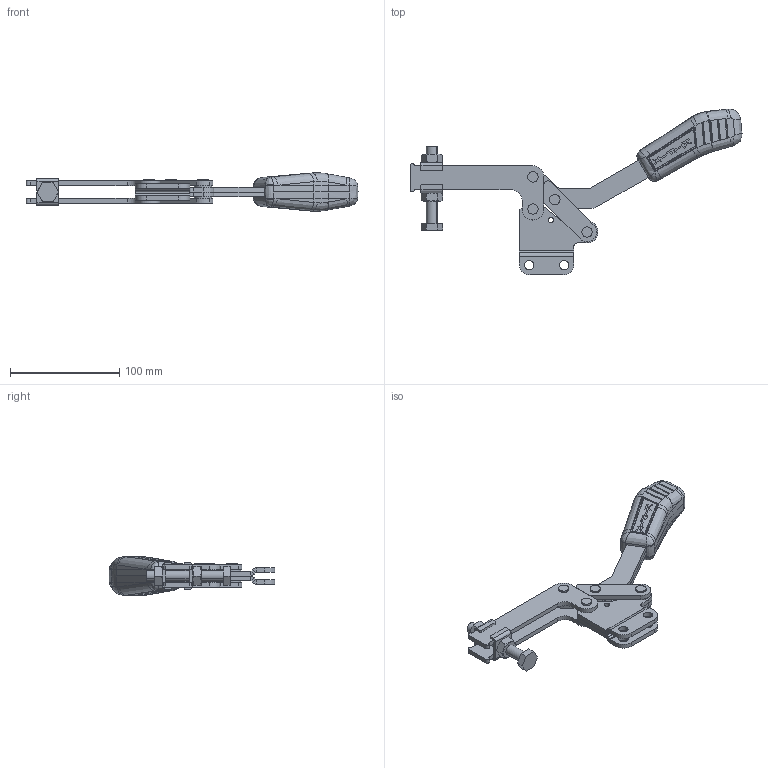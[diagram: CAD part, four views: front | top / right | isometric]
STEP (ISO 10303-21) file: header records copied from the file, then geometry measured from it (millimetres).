
FILE_DESCRIPTION (( 'STEP AP203' ), '1' );
FILE_NAME ('KF-541 RIL.STEP', '2014-08-18T17:28:29', ( 'Ricardo' ), ( '' ), 'SwSTEP 2.0', 'SolidWorks 2013', '' );
FILE_SCHEMA (( 'CONFIG_CONTROL_DESIGN' ));
Length unit declared in the file: millimetre
Products named in the file (12): 11.50003; 02.11034_Esquerda; 17.50002; 01.10044; KF-541 RIL; 03.13050; 08.10008; 06.50026; 07.60002; 14.10003; 12.50021; 02.11034_Direita
Assembly tree (26 placements, depth 2):
  KF-541 RIL
    02.11034_Direita
    02.11034_Esquerda
    01.10044  x2
    03.13050  x2
    08.10008  x2
    06.50026  x4
    07.60002
    14.10003  x2
    12.50021
    11.50003  x2
    17.50002  x8
Bounding box: 303.8 x 151.86 x 35.03 mm (x, y, z)
Volume: 193440.2 mm3; surface area: 86098 mm2
Topology: 26 solids, 26 shells, 826 faces, 2014 edges, 1249 vertices
Faces by surface type: plane 288, cylinder 234, bspline 157, cone 92, sphere 52, torus 3
Entity records: 23693 total; most frequent: CARTESIAN_POINT 8897, ORIENTED_EDGE 2990, DIRECTION 2354, EDGE_CURVE 1495, VERTEX_POINT 940, AXIS2_PLACEMENT_3D 890, EDGE_LOOP 663, FACE_OUTER_BOUND 600
